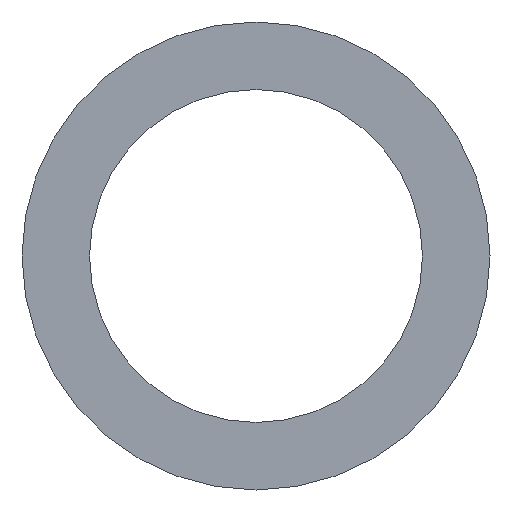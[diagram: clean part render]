
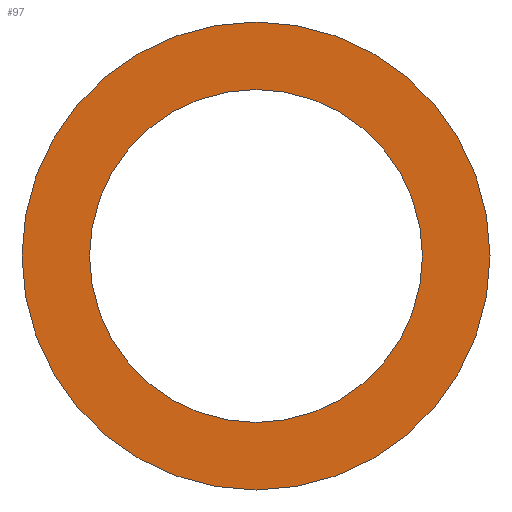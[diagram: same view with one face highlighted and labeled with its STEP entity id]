
A CAD part, front view. The second image highlights one B-rep face of the part: STEP entity #97.
In plain terms, the highlighted planar face has unit normal (0, -1, 0).
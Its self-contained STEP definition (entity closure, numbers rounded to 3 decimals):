
#21=FACE_BOUND('',#40,.T.);
#29=FACE_OUTER_BOUND('',#39,.T.);
#39=EDGE_LOOP('',(#79));
#40=EDGE_LOOP('',(#80));
#53=CIRCLE('',#109,53.);
#54=CIRCLE('',#111,74.5);
#61=VERTEX_POINT('',#162);
#62=VERTEX_POINT('',#165);
#69=EDGE_CURVE('',#61,#61,#53,.T.);
#70=EDGE_CURVE('',#62,#62,#54,.T.);
#79=ORIENTED_EDGE('',*,*,#70,.F.);
#80=ORIENTED_EDGE('',*,*,#69,.T.);
#92=PLANE('',#110);
#97=ADVANCED_FACE('',(#29,#21),#92,.T.);
#109=AXIS2_PLACEMENT_3D('',#163,#131,#132);
#110=AXIS2_PLACEMENT_3D('',#164,#133,#134);
#111=AXIS2_PLACEMENT_3D('',#166,#135,#136);
#131=DIRECTION('center_axis',(0.,1.,0.));
#132=DIRECTION('ref_axis',(1.,0.,0.));
#133=DIRECTION('center_axis',(0.,-1.,0.));
#134=DIRECTION('ref_axis',(0.,0.,-1.));
#135=DIRECTION('center_axis',(0.,1.,0.));
#136=DIRECTION('ref_axis',(1.,0.,0.));
#162=CARTESIAN_POINT('',(-53.,0.,0.));
#163=CARTESIAN_POINT('Origin',(0.,0.,0.));
#164=CARTESIAN_POINT('Origin',(-74.5,0.,0.));
#165=CARTESIAN_POINT('',(-74.5,0.,0.));
#166=CARTESIAN_POINT('Origin',(0.,0.,0.));
